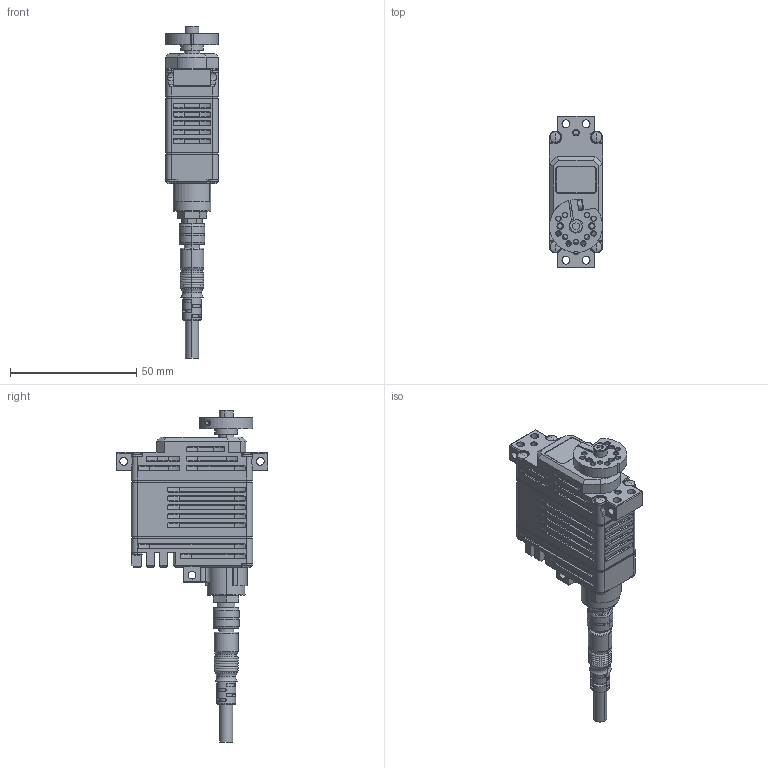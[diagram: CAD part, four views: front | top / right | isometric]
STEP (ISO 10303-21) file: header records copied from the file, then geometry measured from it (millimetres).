
FILE_DESCRIPTION (( 'STEP AP203' ), '1' );
FILE_NAME ('BLA21-06U-A01(3D).STEP', '2022-12-06T03:13:38', ( '' ), ( '' ), 'SwSTEP 2.0', 'SolidWorks 2022', '' );
FILE_SCHEMA (( 'CONFIG_CONTROL_DESIGN' ));
Length unit declared in the file: millimetre
Products named in the file (6): SCREW M2x6; BLA21-06U-A01(3D); SCREW M3x5; BLA21-06U-A01; CABLE; HORN
Assembly tree (5 placements, depth 2):
  BLA21-06U-A01(3D)
    BLA21-06U-A01
    HORN
    SCREW M2x6
    SCREW M3x5
    CABLE
Bounding box: 21 x 60 x 131.3 mm (x, y, z)
Volume: 54540.3 mm3; surface area: 16482.3 mm2
Topology: 5 solids, 5 shells, 1046 faces, 2552 edges, 1580 vertices
Faces by surface type: plane 426, cylinder 360, torus 142, cone 101, bspline 17
Entity records: 32980 total; most frequent: CARTESIAN_POINT 7524, DIRECTION 5334, ORIENTED_EDGE 5100, EDGE_CURVE 2550, AXIS2_PLACEMENT_3D 1983, VERTEX_POINT 1580, VECTOR 1368, LINE 1368
